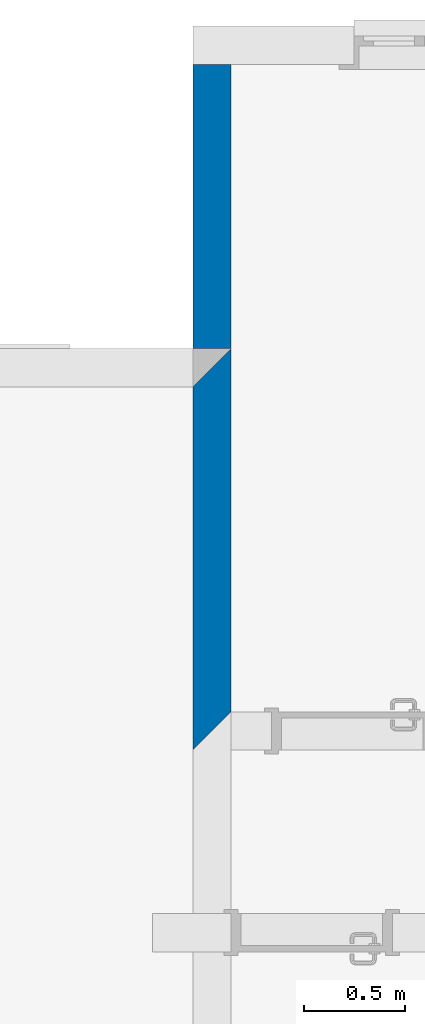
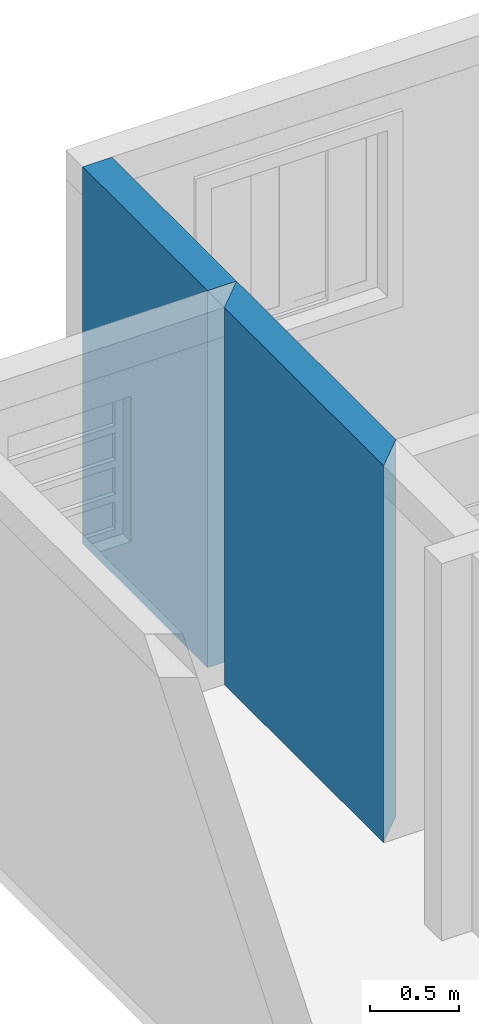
# One storey, part 34 of 47: 2 walls.
"""IFC2X3 building model written with IfcOpenShell, lengths in millimetres."""

from ifc_helpers import new_model, entity, si_unit, converted_unit, derived_unit, money_unit, direction, frame, origin_with_axes, place, context, subcontext, project, spatial, polyline, outline, extrude, material, layer, layer_set, layer_usage, type_object, element, save


model = new_model("IFC2X3")

# Units and contexts
model_context = context("Model", 3, precision=0.01, world=origin_with_axes(), true_north=direction((0.0, 1.0)))
body_context = subcontext(model_context, "Body", "Model", "MODEL_VIEW")
ifc_project = project(units=[si_unit("LENGTHUNIT", "METRE", prefix="MILLI"), si_unit("AREAUNIT", "SQUARE_METRE"), si_unit("VOLUMEUNIT", "CUBIC_METRE"), converted_unit("PLANEANGLEUNIT", "DEGREE", entity("IfcPlaneAngleMeasure", 0.0174532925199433), si_unit("PLANEANGLEUNIT", "RADIAN"), dimensions=[0, 0, 0, 0, 0, 0, 0]), money_unit("USD"), converted_unit("TIMEUNIT", "Year", entity("IfcTimeMeasure", 31557600.0), si_unit("TIMEUNIT", "SECOND"), dimensions=[0, 0, 1, 0, 0, 0, 0]), si_unit("MASSUNIT", "GRAM", prefix="KILO"), si_unit("THERMODYNAMICTEMPERATUREUNIT", "DEGREE_CELSIUS"), si_unit("LUMINOUSINTENSITYUNIT", "LUMEN"), si_unit("ENERGYUNIT", "JOULE", prefix="MEGA"), derived_unit("THERMALCONDUCTANCEUNIT", [(si_unit("POWERUNIT", "WATT"), 1), (si_unit("LENGTHUNIT", "METRE"), -1), (si_unit("THERMODYNAMICTEMPERATUREUNIT", "KELVIN"), -1)]), derived_unit("SPECIFICHEATCAPACITYUNIT", [(si_unit("ENERGYUNIT", "JOULE"), 1), (si_unit("MASSUNIT", "GRAM", prefix="KILO"), -1), (si_unit("THERMODYNAMICTEMPERATUREUNIT", "KELVIN"), -1)]), derived_unit("MASSDENSITYUNIT", [(si_unit("MASSUNIT", "GRAM", prefix="KILO"), 1), (si_unit("VOLUMEUNIT", "CUBIC_METRE"), -1)])], contexts=[model_context])

# Site, building, storey
site_placement = place(None, origin_with_axes())
site = spatial("IfcSite", under=ifc_project, at=site_placement, Name="Local", CompositionType="ELEMENT")
building_placement = place(site_placement, origin_with_axes())
building = spatial("IfcBuilding", under=site, at=building_placement, Name="Construção", CompositionType="ELEMENT")
storey_placement = place(building_placement, origin_with_axes())
storey = spatial("IfcBuildingStorey", under=building, at=storey_placement, Name="Pavimento Tipo", CompositionType="ELEMENT", Elevation=0.0)

# Walls
ifc_material = material(Name="Concreto - Estrutural")
ifc_layer = layer(ifc_material, 190.0, ventilated="UNKNOWN")
ifc_layer_set = layer_set([ifc_layer], Name="Concreto - Estrutural 190")
ifc_layer_usage_1 = layer_usage(ifc_layer_set, "AXIS2", "POSITIVE", 0.0)
wall_type = type_object("IfcWallType", Name="Concreto - Estrutural 190", PredefinedType="NOTDEFINED")
wall_1_placement = place(storey_placement, frame((-4547.433002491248, 17586.98141771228, 0.0), z_axis=(0.0, 0.0, 1.0), x_axis=(0.0, -1.0, 0.0)))
element("IfcWallStandardCase", 1, at=wall_1_placement, inside=storey, type_object=wall_type, material=ifc_layer_usage_1, Name="Apartamento 2 - Parede-083", context=body_context, shape_type="SweptSolid", body=[
    extrude(outline(polyline([(190.0000000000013, 0.0), (1990.0, 0.0), (1800.000000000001, 190.0000000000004), (0.0, 190.0000000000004), (190.0000000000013, 0.0)])), origin_with_axes(), (0.0, 0.0, 1.0), 2600.0),
])
ifc_layer_usage_2 = layer_usage(ifc_layer_set, "AXIS2", "POSITIVE", 0.0)
wall_2_placement = place(storey_placement, frame((-4357.433002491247, 17586.98141771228, 0.0), z_axis=(0.0, 0.0, 1.0), x_axis=(0.0, 1.0, 0.0)))
element("IfcWallStandardCase", 2, at=wall_2_placement, inside=storey, type_object=wall_type, material=ifc_layer_usage_2, Name="Apartamento 2 - Parede-005", context=body_context, shape_type="SweptSolid", body=[
    extrude(outline(polyline([(0.0, 0.0), (1409.999999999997, 0.0), (1409.999999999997, 190.0000000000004), (0.0, 190.0000000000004), (0.0, 0.0)])), origin_with_axes(), (0.0, 0.0, 1.0), 2600.0),
])

save(model, "model.ifc")
